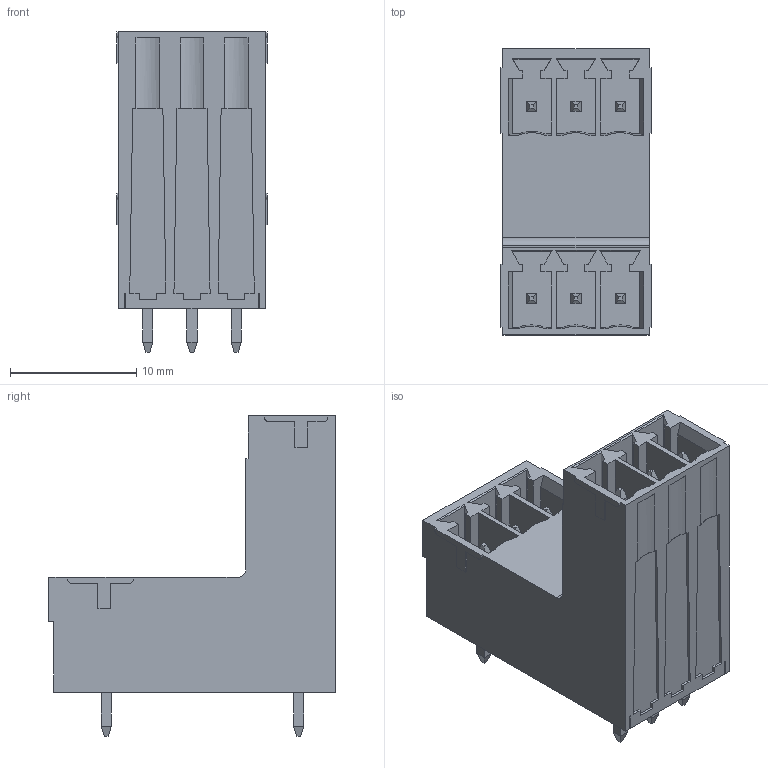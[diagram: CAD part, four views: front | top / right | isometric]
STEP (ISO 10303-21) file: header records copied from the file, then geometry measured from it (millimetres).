
FILE_DESCRIPTION((''),'2;1');
FILE_NAME('3PIN_SW0001','2019-06-04T',('zhenbing.lai'),(''),'CREO PARAMETRIC BY PTC INC, 2016260','CREO PARAMETRIC BY PTC INC, 2016260','');
FILE_SCHEMA(('CONFIG_CONTROL_DESIGN'));
Length unit declared in the file: millimetre
Products named in the file (1): 3PIN_SW0001
Bounding box: 11.9 x 22.7 x 25.4 mm (x, y, z)
Volume: 2809.6 mm3; surface area: 2597 mm2
Topology: 1 solids, 1 shells, 366 faces, 951 edges, 614 vertices
Faces by surface type: plane 342, cylinder 18, cone 6
Entity records: 11003 total; most frequent: CARTESIAN_POINT 2003, ORIENTED_EDGE 1902, DIRECTION 1719, EDGE_CURVE 951, VECTOR 879, LINE 879, VERTEX_POINT 614, AXIS2_PLACEMENT_3D 420
